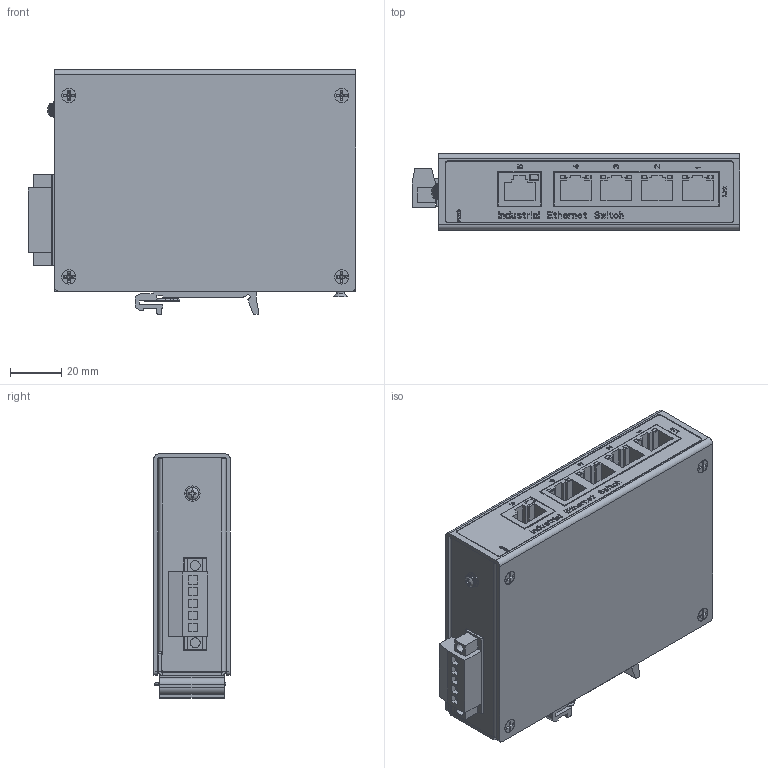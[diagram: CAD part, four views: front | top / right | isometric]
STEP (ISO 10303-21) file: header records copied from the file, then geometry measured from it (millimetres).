
FILE_DESCRIPTION((''),'2;1');
FILE_NAME('NEU1050G-QR_NEU1050GP-QR_260112_ASM','2026-03-20T12:28:17',('WB'),(''),'CREO PARAMETRIC BY PTC INC, 2020053','CREO PARAMETRIC BY PTC INC, 2020053','');
FILE_SCHEMA(('AUTOMOTIVE_DESIGN { 1 0 10303 214 1 1 1 1 }'));
Products named in the file (16): XIAKE_52; SHANGKE_42; 5KOU_PCB_8; LXLYM-2EDGRM_10_1; LXLYM-2EDGRM_10_2; LXLYM-2EDGRM_10_ASM; 1X4_RJ45_LED_1; RJ45_LED_D_2; LED_TP_1; NEU2050GBS_PCBA_ASM_24_ASM; PVC_38; M3X6MM_DP_1; KM3X5MM_3; GUAGOU-25MM_13; NEUH2050GBS_ASM_86_ASM; NEU1050G-QR_NEU1050GP-QR_260112_ASM
Assembly tree (30 placements, depth 5):
  NEU1050G-QR_NEU1050GP-QR_260112_ASM
    NEUH2050GBS_ASM_86_ASM
      XIAKE_52
      SHANGKE_42
      NEU2050GBS_PCBA_ASM_24_ASM
        5KOU_PCB_8
        LXLYM-2EDGRM_10_ASM
          LXLYM-2EDGRM_10_1
          LXLYM-2EDGRM_10_2
        1X4_RJ45_LED_1
        RJ45_LED_D_2
        LED_TP_1  x2
      PVC_38
      M3X6MM_DP_1  x5
      KM3X5MM_3  x11
      GUAGOU-25MM_13
Bounding box: 127.3 x 30 x 95 mm (x, y, z)
Volume: 88942 mm3; surface area: 124390.4 mm2
Topology: 27 solids, 28 shells, 2490 faces, 6665 edges, 4327 vertices
Faces by surface type: plane 1685, cylinder 566, cone 84, sphere 54, bspline 51, torus 50
Entity records: 74712 total; most frequent: CARTESIAN_POINT 12319, ORIENTED_EDGE 9742, DIRECTION 9157, EDGE_CURVE 4871, PRESENTATION_STYLE_ASSIGNMENT 4825, STYLED_ITEM 4759, CURVE_STYLE 4663, VECTOR 4125
